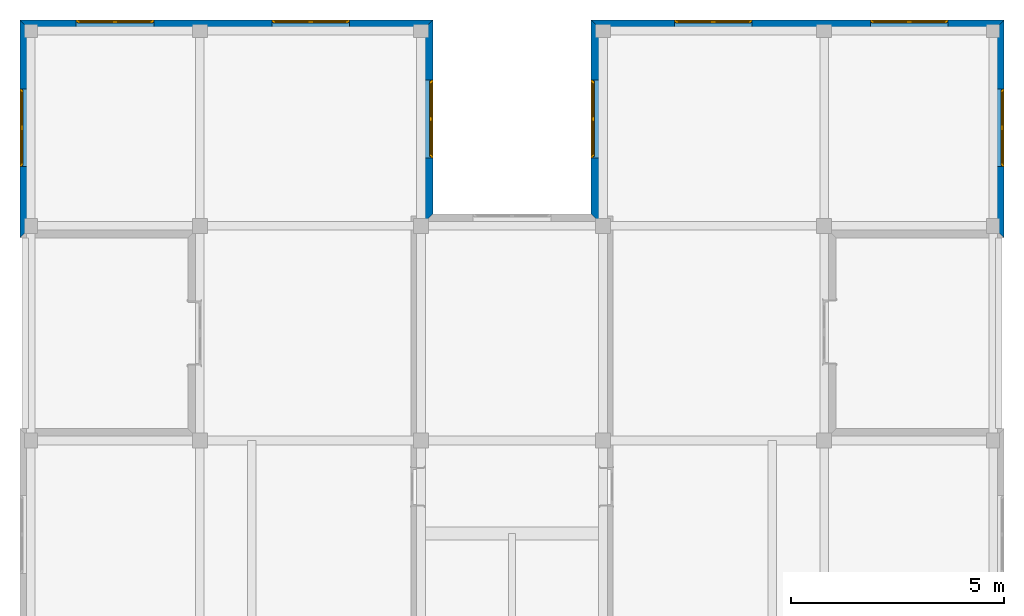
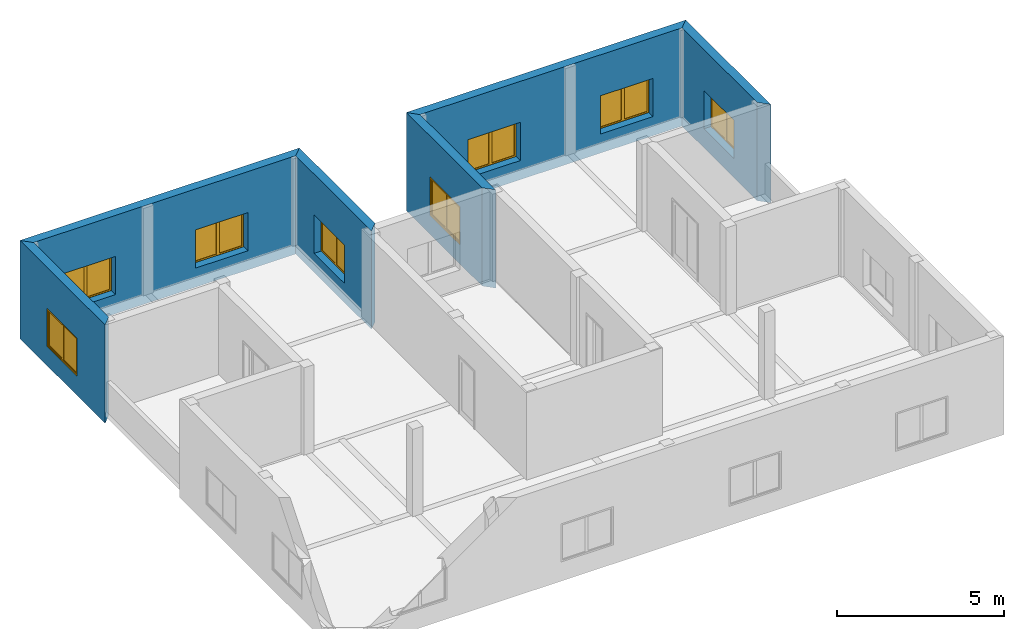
# One storey, part 5 of 6: 8 windows, 6 walls, 8 openings.
"""IFC2X3 building model written with IfcOpenShell, lengths in millimetres."""

from ifc_helpers import new_model, entity, si_unit, converted_unit, direction, frame, origin_with_axes, origin_2d_with_axis, place, context, subcontext, project, spatial, polyline, rectangle, outline, extrude, faceted_brep, source, transform, mapped, material, layer, layer_set, layer_usage, type_object, element, fill, save


model = new_model("IFC2X3")

# Units and contexts
model_context = context("Model", 3, precision=1e-05, world=origin_with_axes(), true_north=direction((0.0, 1.0)))
body_context = subcontext(model_context, "Body", "Model", "MODEL_VIEW")
ifc_project = project(units=[si_unit("LENGTHUNIT", "METRE", prefix="MILLI"), si_unit("AREAUNIT", "SQUARE_METRE"), si_unit("VOLUMEUNIT", "CUBIC_METRE"), converted_unit("PLANEANGLEUNIT", "DEGREE", entity("IfcPlaneAngleMeasure", 0.017453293), si_unit("PLANEANGLEUNIT", "RADIAN"), dimensions=[0, 0, 0, 0, 0, 0, 0]), si_unit("SOLIDANGLEUNIT", "STERADIAN"), si_unit("MASSUNIT", "GRAM"), si_unit("TIMEUNIT", "SECOND"), si_unit("THERMODYNAMICTEMPERATUREUNIT", "DEGREE_CELSIUS"), si_unit("LUMINOUSINTENSITYUNIT", "LUMEN")], contexts=[model_context])

# Site, building, storey
site_placement = place(None, origin_with_axes())
site = spatial("IfcSite", under=ifc_project, at=site_placement, Name="Sitio", CompositionType="ELEMENT")
building_placement = place(site_placement, origin_with_axes())
building = spatial("IfcBuilding", under=site, at=building_placement, Name="Ejemplo_StruBIM", CompositionType="ELEMENT")
storey_placement = place(building_placement, frame((0.0, 0.0, 3200.4), z_axis=(0.0, 0.0, 1.0), x_axis=(1.0, 0.0, 0.0)))
storey = spatial("IfcBuildingStorey", under=building, at=storey_placement, Name="First floor", CompositionType="ELEMENT", Elevation=3200.4)

# Wall, opening, window
ifc_material_1 = material(Name="Bloque mampostería")
ifc_layer = layer(ifc_material_1, 300.0, ventilated="UNKNOWN")
ifc_layer_set = layer_set([ifc_layer], Name="Bloque mampostería 300")
ifc_layer_usage_1 = layer_usage(ifc_layer_set, "AXIS2", "POSITIVE", 0.0)
wall_type = type_object("IfcWallType", Name="Bloque mampostería 11 3/4\"", PredefinedType="NOTDEFINED")
wall_1_placement = place(storey_placement, frame((-254.0, 18846.8, -400.0), z_axis=(0.0, 0.0, 1.0), x_axis=(0.0, -1.0, 0.0)))
wall_1 = element("IfcWallStandardCase", 1, at=wall_1_placement, inside=storey, type_object=wall_type, material=ifc_layer_usage_1, Name="Muro-006", context=body_context, shape_type="SweptSolid", body=[
    extrude(outline(polyline([(0.0, 0.0), (5105.4, 0.0), (4805.4, 300.0), (300.0, 300.0), (0.0, 0.0)])), origin_with_axes(), (0.0, 0.0, 1.0), 3600.4),
])
opening_1_placement = place(wall_1_placement, frame((2522.9, 0.0, 700.0), z_axis=(0.0, 0.0, 1.0), x_axis=(1.0, 0.0, 0.0)))
opening_1 = element("IfcOpeningElement", 2, at=opening_1_placement, cuts=wall_1, Name="V05", context=body_context, shape_type="SweptSolid", body=[
    extrude(rectangle(XDim=1820.0, YDim=1400.0, at=origin_2d_with_axis()), frame((0.0, 300.0, 700.0), z_axis=(0.0, 1.0, 0.0), x_axis=(1.0, 0.0, 0.0)), (0.0, 0.0, -1.0), 300.0),
])
ifc_material_2 = material(Name="Fondo")
window_style = type_object("IfcWindowStyle", Name="Ventana Doble Hoja 16", ConstructionType="NOTDEFINED", OperationType="DOUBLE_PANEL_HORIZONTAL", ParameterTakesPrecedence=False, Sizeable=False)
shared_shape_1 = source(origin_with_axes(), body_context, "Body", "Brep", [
    faceted_brep([(885.0, -50.0, 1350.0), (910.0, -50.0, 1350.0), (910.0, 0.0, 1350.0), (860.0, 0.0, 1350.0), (860.0, -25.0, 1350.0), (885.0, -25.0, 1350.0), (885.0, -50.0, 50.0), (910.0, -50.0, 50.0), (910.0, 0.0, 50.0), (860.0, 0.0, 50.0), (860.0, -25.0, 50.0), (885.0, -25.0, 50.0)], [[[0, 1, 2, 3, 4, 5]], [[6, 7, 1, 0]], [[1, 7, 8, 2]], [[2, 8, 9, 3]], [[4, 3, 9, 10]], [[10, 11, 5, 4]], [[5, 11, 6, 0]], [[11, 10, 9, 8, 7, 6]]]),
    faceted_brep([(-860.0, -25.0, 1350.0), (-860.0, 0.0, 1350.0), (-910.0, 0.0, 1350.0), (-910.0, -50.0, 1350.0), (-885.0, -50.0, 1350.0), (-885.0, -25.0, 1350.0), (-860.0, -25.0, 50.0), (-860.0, 0.0, 50.0), (-910.0, 0.0, 50.0), (-910.0, -50.0, 50.0), (-885.0, -50.0, 50.0), (-885.0, -25.0, 50.0)], [[[0, 1, 2, 3, 4, 5]], [[6, 7, 1, 0]], [[8, 2, 1, 7]], [[9, 3, 2, 8]], [[4, 3, 9, 10]], [[10, 11, 5, 4]], [[5, 11, 6, 0]], [[11, 10, 9, 8, 7, 6]]]),
    faceted_brep([(-860.0, -25.0, 50.0), (-860.0, 0.0, 50.0), (-910.0, 0.0, 50.0), (-910.0, -50.0, 50.0), (-885.0, -50.0, 50.0), (-885.0, -25.0, 50.0), (860.0, -25.0, 50.0), (860.0, 0.0, 50.0), (910.0, 0.0, 50.0), (910.0, 0.0, 0.0), (-910.0, 0.0, 0.0), (-910.0, -50.0, 0.0), (885.0, -50.0, 25.0), (-885.0, -50.0, 25.0), (910.0, -50.0, 0.0), (910.0, -50.0, 50.0), (885.0, -50.0, 50.0), (-885.0, -25.0, 25.0), (885.0, -25.0, 25.0), (885.0, -25.0, 50.0)], [[[0, 1, 2, 3, 4, 5]], [[6, 7, 1, 0]], [[8, 9, 10, 2, 1, 7]], [[11, 3, 2, 10]], [[12, 13, 4, 3, 11, 14, 15, 16]], [[13, 17, 5, 4]], [[5, 17, 18, 19, 6, 0]], [[19, 16, 15, 8, 7, 6]], [[15, 14, 9, 8]], [[14, 11, 10, 9]], [[12, 18, 17, 13]], [[19, 18, 12, 16]]]),
    faceted_brep([(885.0, -50.0, 1350.0), (910.0, -50.0, 1350.0), (910.0, -50.0, 1400.0), (-910.0, -50.0, 1400.0), (-910.0, -50.0, 1350.0), (-885.0, -50.0, 1350.0), (-885.0, -50.0, 1375.0), (885.0, -50.0, 1375.0), (885.0, -25.0, 1350.0), (860.0, -25.0, 1350.0), (860.0, 0.0, 1350.0), (910.0, 0.0, 1350.0), (910.0, 0.0, 1400.0), (-910.0, 0.0, 1400.0), (-910.0, 0.0, 1350.0), (-885.0, -25.0, 1350.0), (-860.0, 0.0, 1350.0), (-860.0, -25.0, 1350.0), (-885.0, -25.0, 1375.0), (885.0, -25.0, 1375.0)], [[[0, 1, 2, 3, 4, 5, 6, 7]], [[8, 9, 10, 11, 1, 0]], [[2, 1, 11, 12]], [[3, 2, 12, 13]], [[4, 3, 13, 14]], [[15, 5, 4, 14, 16, 17]], [[5, 15, 18, 6]], [[6, 18, 19, 7]], [[7, 19, 8, 0]], [[17, 9, 8, 19, 18, 15]], [[17, 16, 10, 9]], [[14, 13, 12, 11, 10, 16]]]),
    faceted_brep([(835.0, -25.0, 1325.0), (835.0, -75.0, 1325.0), (885.0, -75.0, 1325.0), (885.0, -25.0, 1325.0), (835.0, -25.0, 75.0), (835.0, -75.0, 75.0), (885.0, -75.0, 75.0), (885.0, -25.0, 75.0)], [[[0, 1, 2, 3]], [[4, 5, 1, 0]], [[1, 5, 6, 2]], [[3, 2, 6, 7]], [[0, 3, 7, 4]], [[7, 6, 5, 4]]]),
    faceted_brep([(50.0, -25.0, 75.0), (50.0, -75.0, 75.0), (0.0, -75.0, 75.0), (0.0, -25.0, 75.0), (50.0, -25.0, 1325.0), (50.0, -75.0, 1325.0), (0.0, -75.0, 1325.0), (0.0, -25.0, 1325.0)], [[[0, 1, 2, 3]], [[4, 5, 1, 0]], [[1, 5, 6, 2]], [[3, 2, 6, 7]], [[0, 3, 7, 4]], [[7, 6, 5, 4]]]),
    faceted_brep([(0.0, -25.0, 25.0), (0.0, -75.0, 25.0), (0.0, -75.0, 75.0), (0.0, -25.0, 75.0), (885.0, -25.0, 25.0), (885.0, -75.0, 25.0), (885.0, -75.0, 75.0), (835.0, -75.0, 75.0), (50.0, -75.0, 75.0), (50.0, -25.0, 75.0), (835.0, -25.0, 75.0), (885.0, -25.0, 75.0)], [[[0, 1, 2, 3]], [[4, 5, 1, 0]], [[1, 5, 6, 7, 8, 2]], [[3, 2, 8, 9]], [[0, 3, 9, 10, 11, 4]], [[11, 6, 5, 4]], [[10, 7, 6, 11]], [[9, 8, 7, 10]]]),
    faceted_brep([(885.0, -25.0, 1375.0), (885.0, -75.0, 1375.0), (885.0, -75.0, 1325.0), (885.0, -25.0, 1325.0), (0.0, -25.0, 1375.0), (0.0, -75.0, 1375.0), (0.0, -75.0, 1325.0), (50.0, -75.0, 1325.0), (835.0, -75.0, 1325.0), (835.0, -25.0, 1325.0), (50.0, -25.0, 1325.0), (0.0, -25.0, 1325.0)], [[[0, 1, 2, 3]], [[4, 5, 1, 0]], [[1, 5, 6, 7, 8, 2]], [[3, 2, 8, 9]], [[0, 3, 9, 10, 11, 4]], [[11, 6, 5, 4]], [[10, 7, 6, 11]], [[9, 8, 7, 10]]]),
    faceted_brep([(835.0, -40.0, 75.0), (835.0, -60.0, 75.0), (50.0, -60.0, 75.0), (50.0, -40.0, 75.0), (835.0, -40.0, 1325.0), (835.0, -60.0, 1325.0), (50.0, -60.0, 1325.0), (50.0, -40.0, 1325.0)], [[[0, 1, 2, 3]], [[4, 5, 1, 0]], [[1, 5, 6, 2]], [[3, 2, 6, 7]], [[0, 3, 7, 4]], [[7, 6, 5, 4]]]),
    faceted_brep([(-50.0, -25.0, 1325.0), (-50.0, -75.0, 1325.0), (0.0, -75.0, 1325.0), (0.0, -25.0, 1325.0), (-50.0, -25.0, 75.0), (-50.0, -75.0, 75.0), (0.0, -75.0, 75.0), (0.0, -25.0, 75.0)], [[[0, 1, 2, 3]], [[4, 5, 1, 0]], [[1, 5, 6, 2]], [[3, 2, 6, 7]], [[0, 3, 7, 4]], [[7, 6, 5, 4]]]),
    faceted_brep([(-835.0, -25.0, 75.0), (-835.0, -75.0, 75.0), (-885.0, -75.0, 75.0), (-885.0, -25.0, 75.0), (-835.0, -25.0, 1325.0), (-835.0, -75.0, 1325.0), (-885.0, -75.0, 1325.0), (-885.0, -25.0, 1325.0)], [[[0, 1, 2, 3]], [[4, 5, 1, 0]], [[1, 5, 6, 2]], [[3, 2, 6, 7]], [[0, 3, 7, 4]], [[7, 6, 5, 4]]]),
    faceted_brep([(-885.0, -25.0, 25.0), (-885.0, -75.0, 25.0), (-885.0, -75.0, 75.0), (-885.0, -25.0, 75.0), (0.0, -25.0, 25.0), (0.0, -75.0, 25.0), (0.0, -75.0, 75.0), (-50.0, -75.0, 75.0), (-835.0, -75.0, 75.0), (-835.0, -25.0, 75.0), (-50.0, -25.0, 75.0), (0.0, -25.0, 75.0)], [[[0, 1, 2, 3]], [[4, 5, 1, 0]], [[1, 5, 6, 7, 8, 2]], [[3, 2, 8, 9]], [[0, 3, 9, 10, 11, 4]], [[11, 6, 5, 4]], [[10, 7, 6, 11]], [[9, 8, 7, 10]]]),
    faceted_brep([(0.0, -25.0, 1375.0), (0.0, -75.0, 1375.0), (0.0, -75.0, 1325.0), (0.0, -25.0, 1325.0), (-885.0, -25.0, 1375.0), (-885.0, -75.0, 1375.0), (-885.0, -75.0, 1325.0), (-835.0, -75.0, 1325.0), (-50.0, -75.0, 1325.0), (-50.0, -25.0, 1325.0), (-835.0, -25.0, 1325.0), (-885.0, -25.0, 1325.0)], [[[0, 1, 2, 3]], [[4, 5, 1, 0]], [[1, 5, 6, 7, 8, 2]], [[3, 2, 8, 9]], [[0, 3, 9, 10, 11, 4]], [[11, 6, 5, 4]], [[10, 7, 6, 11]], [[9, 8, 7, 10]]]),
    faceted_brep([(-50.0, -40.0, 75.0), (-50.0, -60.0, 75.0), (-835.0, -60.0, 75.0), (-835.0, -40.0, 75.0), (-50.0, -40.0, 1325.0), (-50.0, -60.0, 1325.0), (-835.0, -60.0, 1325.0), (-835.0, -40.0, 1325.0)], [[[0, 1, 2, 3]], [[4, 5, 1, 0]], [[1, 5, 6, 2]], [[3, 2, 6, 7]], [[0, 3, 7, 4]], [[7, 6, 5, 4]]]),
])
window_1_placement = place(opening_1_placement, frame((910.0, 0.0, 0.0), z_axis=(0.0, 0.0, 1.0), x_axis=(-1.0, 0.0, 0.0)))
window_1 = element("IfcWindow", 3, at=window_1_placement, inside=storey, type_object=window_style, material=ifc_material_2, Name="V05", OverallHeight=1400.0, OverallWidth=1820.0, context=body_context, shape_type="MappedRepresentation", body=[
    mapped(shared_shape_1, transform((910.0, 0.0, 0.0))),
])
fill(opening_1, window_1)

# Wall, openings, windows
ifc_layer_usage_2 = layer_usage(ifc_layer_set, "AXIS2", "POSITIVE", 0.0)
wall_2_placement = place(storey_placement, frame((9423.4, 18846.8, -400.0), z_axis=(0.0, 0.0, 1.0), x_axis=(-1.0, 0.0, 0.0)))
wall_2 = element("IfcWallStandardCase", 4, at=wall_2_placement, inside=storey, type_object=wall_type, material=ifc_layer_usage_2, Name="Muro-007", context=body_context, shape_type="SweptSolid", body=[
    extrude(outline(polyline([(0.0, 0.0), (9677.4, 0.0), (9377.4, 300.0), (300.0, 300.0), (0.0, 0.0)])), origin_with_axes(), (0.0, 0.0, 1.0), 3600.4),
])
opening_2_placement = place(wall_2_placement, frame((2865.8, 0.0, 700.0), z_axis=(0.0, 0.0, 1.0), x_axis=(1.0, 0.0, 0.0)))
opening_2 = element("IfcOpeningElement", 5, at=opening_2_placement, cuts=wall_2, Name="V03", context=body_context, shape_type="SweptSolid", body=[
    extrude(rectangle(XDim=1820.0, YDim=1400.0, at=origin_2d_with_axis()), frame((0.0, 300.0, 700.0), z_axis=(0.0, 1.0, 0.0), x_axis=(1.0, 0.0, 0.0)), (0.0, 0.0, -1.0), 300.0),
])
opening_3_placement = place(wall_2_placement, frame((7450.5, 0.0, 700.0), z_axis=(0.0, 0.0, 1.0), x_axis=(1.0, 0.0, 0.0)))
opening_3 = element("IfcOpeningElement", 6, at=opening_3_placement, cuts=wall_2, Name="V04", context=body_context, shape_type="SweptSolid", body=[
    extrude(rectangle(XDim=1820.0, YDim=1400.0, at=origin_2d_with_axis()), frame((0.0, 300.0, 700.0), z_axis=(0.0, -1.0, 0.0), x_axis=(1.0, 0.0, 0.0)), (0.0, 0.0, 1.0), 300.0),
])
window_2_placement = place(opening_2_placement, frame((910.0, 0.0, 0.0), z_axis=(0.0, 0.0, 1.0), x_axis=(-1.0, 0.0, 0.0)))
window_2 = element("IfcWindow", 7, at=window_2_placement, inside=storey, type_object=window_style, material=ifc_material_2, Name="V03", OverallHeight=1400.0, OverallWidth=1820.0, context=body_context, shape_type="MappedRepresentation", body=[
    mapped(shared_shape_1, transform((910.0, 0.0, 0.0))),
])
fill(opening_2, window_2)
shared_shape_2 = source(origin_with_axes(), body_context, "Body", "Brep", [
    faceted_brep([(-885.0, -50.0, 1350.0), (-885.0, -25.0, 1350.0), (-860.0, -25.0, 1350.0), (-860.0, 0.0, 1350.0), (-910.0, 0.0, 1350.0), (-910.0, -50.0, 1350.0), (-885.0, -50.0, 50.0), (-885.0, -25.0, 50.0), (-860.0, -25.0, 50.0), (-860.0, 0.0, 50.0), (-910.0, 0.0, 50.0), (-910.0, -50.0, 50.0)], [[[0, 1, 2, 3, 4, 5]], [[1, 0, 6, 7]], [[8, 2, 1, 7]], [[2, 8, 9, 3]], [[4, 3, 9, 10]], [[5, 4, 10, 11]], [[6, 0, 5, 11]], [[7, 6, 11, 10, 9, 8]]]),
    faceted_brep([(860.0, -25.0, 1350.0), (885.0, -25.0, 1350.0), (885.0, -50.0, 1350.0), (910.0, -50.0, 1350.0), (910.0, 0.0, 1350.0), (860.0, 0.0, 1350.0), (860.0, -25.0, 50.0), (885.0, -25.0, 50.0), (885.0, -50.0, 50.0), (910.0, -50.0, 50.0), (910.0, 0.0, 50.0), (860.0, 0.0, 50.0)], [[[0, 1, 2, 3, 4, 5]], [[1, 0, 6, 7]], [[8, 2, 1, 7]], [[2, 8, 9, 3]], [[9, 10, 4, 3]], [[10, 11, 5, 4]], [[6, 0, 5, 11]], [[7, 6, 11, 10, 9, 8]]]),
    faceted_brep([(860.0, -25.0, 50.0), (885.0, -25.0, 50.0), (885.0, -50.0, 50.0), (910.0, -50.0, 50.0), (910.0, 0.0, 50.0), (860.0, 0.0, 50.0), (-860.0, -25.0, 50.0), (-885.0, -25.0, 50.0), (-885.0, -25.0, 25.0), (885.0, -25.0, 25.0), (885.0, -50.0, 25.0), (-885.0, -50.0, 25.0), (-885.0, -50.0, 50.0), (-910.0, -50.0, 50.0), (-910.0, -50.0, 0.0), (910.0, -50.0, 0.0), (910.0, 0.0, 0.0), (-910.0, 0.0, 50.0), (-860.0, 0.0, 50.0), (-910.0, 0.0, 0.0)], [[[0, 1, 2, 3, 4, 5]], [[1, 0, 6, 7, 8, 9]], [[10, 2, 1, 9]], [[11, 12, 13, 14, 15, 3, 2, 10]], [[15, 16, 4, 3]], [[17, 18, 5, 4, 16, 19]], [[6, 0, 5, 18]], [[7, 6, 18, 17, 13, 12]], [[7, 12, 11, 8]], [[11, 10, 9, 8]], [[13, 17, 19, 14]], [[14, 19, 16, 15]]]),
    faceted_brep([(-885.0, -50.0, 1350.0), (-885.0, -50.0, 1375.0), (885.0, -50.0, 1375.0), (885.0, -50.0, 1350.0), (910.0, -50.0, 1350.0), (910.0, -50.0, 1400.0), (-910.0, -50.0, 1400.0), (-910.0, -50.0, 1350.0), (-885.0, -25.0, 1350.0), (-885.0, -25.0, 1375.0), (885.0, -25.0, 1375.0), (885.0, -25.0, 1350.0), (860.0, -25.0, 1350.0), (860.0, 0.0, 1350.0), (910.0, 0.0, 1350.0), (910.0, 0.0, 1400.0), (-910.0, 0.0, 1400.0), (-910.0, 0.0, 1350.0), (-860.0, 0.0, 1350.0), (-860.0, -25.0, 1350.0)], [[[0, 1, 2, 3, 4, 5, 6, 7]], [[1, 0, 8, 9]], [[2, 1, 9, 10]], [[3, 2, 10, 11]], [[11, 12, 13, 14, 4, 3]], [[4, 14, 15, 5]], [[5, 15, 16, 6]], [[6, 16, 17, 7]], [[8, 0, 7, 17, 18, 19]], [[12, 11, 10, 9, 8, 19]], [[12, 19, 18, 13]], [[14, 13, 18, 17, 16, 15]]]),
    faceted_brep([(-835.0, -25.0, 1325.0), (-885.0, -25.0, 1325.0), (-885.0, -75.0, 1325.0), (-835.0, -75.0, 1325.0), (-835.0, -25.0, 75.0), (-885.0, -25.0, 75.0), (-885.0, -75.0, 75.0), (-835.0, -75.0, 75.0)], [[[0, 1, 2, 3]], [[0, 4, 5, 1]], [[1, 5, 6, 2]], [[3, 2, 6, 7]], [[4, 0, 3, 7]], [[5, 4, 7, 6]]]),
    faceted_brep([(-50.0, -25.0, 75.0), (0.0, -25.0, 75.0), (0.0, -75.0, 75.0), (-50.0, -75.0, 75.0), (-50.0, -25.0, 1325.0), (0.0, -25.0, 1325.0), (0.0, -75.0, 1325.0), (-50.0, -75.0, 1325.0)], [[[0, 1, 2, 3]], [[0, 4, 5, 1]], [[1, 5, 6, 2]], [[3, 2, 6, 7]], [[4, 0, 3, 7]], [[5, 4, 7, 6]]]),
    faceted_brep([(0.0, -25.0, 25.0), (0.0, -25.0, 75.0), (0.0, -75.0, 75.0), (0.0, -75.0, 25.0), (-885.0, -25.0, 25.0), (-885.0, -25.0, 75.0), (-835.0, -25.0, 75.0), (-50.0, -25.0, 75.0), (-50.0, -75.0, 75.0), (-835.0, -75.0, 75.0), (-885.0, -75.0, 75.0), (-885.0, -75.0, 25.0)], [[[0, 1, 2, 3]], [[0, 4, 5, 6, 7, 1]], [[1, 7, 8, 2]], [[3, 2, 8, 9, 10, 11]], [[4, 0, 3, 11]], [[5, 4, 11, 10]], [[6, 5, 10, 9]], [[7, 6, 9, 8]]]),
    faceted_brep([(-885.0, -25.0, 1375.0), (-885.0, -25.0, 1325.0), (-885.0, -75.0, 1325.0), (-885.0, -75.0, 1375.0), (0.0, -25.0, 1375.0), (0.0, -25.0, 1325.0), (-50.0, -25.0, 1325.0), (-835.0, -25.0, 1325.0), (-835.0, -75.0, 1325.0), (-50.0, -75.0, 1325.0), (0.0, -75.0, 1325.0), (0.0, -75.0, 1375.0)], [[[0, 1, 2, 3]], [[0, 4, 5, 6, 7, 1]], [[1, 7, 8, 2]], [[3, 2, 8, 9, 10, 11]], [[4, 0, 3, 11]], [[5, 4, 11, 10]], [[6, 5, 10, 9]], [[7, 6, 9, 8]]]),
    faceted_brep([(-835.0, -40.0, 75.0), (-50.0, -40.0, 75.0), (-50.0, -60.0, 75.0), (-835.0, -60.0, 75.0), (-835.0, -40.0, 1325.0), (-50.0, -40.0, 1325.0), (-50.0, -60.0, 1325.0), (-835.0, -60.0, 1325.0)], [[[0, 1, 2, 3]], [[0, 4, 5, 1]], [[1, 5, 6, 2]], [[3, 2, 6, 7]], [[4, 0, 3, 7]], [[5, 4, 7, 6]]]),
    faceted_brep([(50.0, -25.0, 1325.0), (0.0, -25.0, 1325.0), (0.0, -75.0, 1325.0), (50.0, -75.0, 1325.0), (50.0, -25.0, 75.0), (0.0, -25.0, 75.0), (0.0, -75.0, 75.0), (50.0, -75.0, 75.0)], [[[0, 1, 2, 3]], [[0, 4, 5, 1]], [[1, 5, 6, 2]], [[3, 2, 6, 7]], [[4, 0, 3, 7]], [[5, 4, 7, 6]]]),
    faceted_brep([(835.0, -25.0, 75.0), (885.0, -25.0, 75.0), (885.0, -75.0, 75.0), (835.0, -75.0, 75.0), (835.0, -25.0, 1325.0), (885.0, -25.0, 1325.0), (885.0, -75.0, 1325.0), (835.0, -75.0, 1325.0)], [[[0, 1, 2, 3]], [[0, 4, 5, 1]], [[1, 5, 6, 2]], [[3, 2, 6, 7]], [[4, 0, 3, 7]], [[5, 4, 7, 6]]]),
    faceted_brep([(885.0, -25.0, 25.0), (885.0, -25.0, 75.0), (885.0, -75.0, 75.0), (885.0, -75.0, 25.0), (0.0, -25.0, 25.0), (0.0, -25.0, 75.0), (50.0, -25.0, 75.0), (835.0, -25.0, 75.0), (835.0, -75.0, 75.0), (50.0, -75.0, 75.0), (0.0, -75.0, 75.0), (0.0, -75.0, 25.0)], [[[0, 1, 2, 3]], [[0, 4, 5, 6, 7, 1]], [[1, 7, 8, 2]], [[3, 2, 8, 9, 10, 11]], [[4, 0, 3, 11]], [[5, 4, 11, 10]], [[6, 5, 10, 9]], [[7, 6, 9, 8]]]),
    faceted_brep([(0.0, -25.0, 1375.0), (0.0, -25.0, 1325.0), (0.0, -75.0, 1325.0), (0.0, -75.0, 1375.0), (885.0, -25.0, 1375.0), (885.0, -25.0, 1325.0), (835.0, -25.0, 1325.0), (50.0, -25.0, 1325.0), (50.0, -75.0, 1325.0), (835.0, -75.0, 1325.0), (885.0, -75.0, 1325.0), (885.0, -75.0, 1375.0)], [[[0, 1, 2, 3]], [[0, 4, 5, 6, 7, 1]], [[1, 7, 8, 2]], [[3, 2, 8, 9, 10, 11]], [[4, 0, 3, 11]], [[5, 4, 11, 10]], [[6, 5, 10, 9]], [[7, 6, 9, 8]]]),
    faceted_brep([(50.0, -40.0, 75.0), (835.0, -40.0, 75.0), (835.0, -60.0, 75.0), (50.0, -60.0, 75.0), (50.0, -40.0, 1325.0), (835.0, -40.0, 1325.0), (835.0, -60.0, 1325.0), (50.0, -60.0, 1325.0)], [[[0, 1, 2, 3]], [[0, 4, 5, 1]], [[1, 5, 6, 2]], [[3, 2, 6, 7]], [[4, 0, 3, 7]], [[5, 4, 7, 6]]]),
])
window_3_placement = place(opening_3_placement, frame((910.0, 0.0, 0.0), z_axis=(0.0, 0.0, 1.0), x_axis=(-1.0, 0.0, 0.0)))
window_3 = element("IfcWindow", 8, at=window_3_placement, inside=storey, type_object=window_style, material=ifc_material_2, Name="V04", OverallHeight=1400.0, OverallWidth=1820.0, context=body_context, shape_type="MappedRepresentation", body=[
    mapped(shared_shape_2, transform((910.0, 0.0, 0.0))),
])
fill(opening_3, window_3)

# Wall, opening, window
ifc_layer_usage_3 = layer_usage(ifc_layer_set, "AXIS2", "POSITIVE", 0.0)
wall_3_placement = place(storey_placement, frame((9423.4, 14300.2, -400.0), z_axis=(0.0, 0.0, 1.0), x_axis=(0.0, 1.0, 0.0)))
wall_3 = element("IfcWallStandardCase", 9, at=wall_3_placement, inside=storey, type_object=wall_type, material=ifc_layer_usage_3, Name="Muro-009", context=body_context, shape_type="SweptSolid", body=[
    extrude(outline(polyline([(0.0, 0.0), (4546.6, 0.0), (4246.6, 300.0), (-300.0, 300.0), (0.0, 0.0)])), origin_with_axes(), (0.0, 0.0, 1.0), 3600.4),
])
opening_4_placement = place(wall_3_placement, frame((2226.9, 0.0, 700.0), z_axis=(0.0, 0.0, 1.0), x_axis=(1.0, 0.0, 0.0)))
opening_4 = element("IfcOpeningElement", 10, at=opening_4_placement, cuts=wall_3, Name="V08", context=body_context, shape_type="SweptSolid", body=[
    extrude(rectangle(XDim=1820.0, YDim=1400.0, at=origin_2d_with_axis()), frame((0.0, 300.0, 700.0), z_axis=(0.0, -1.0, 0.0), x_axis=(1.0, 0.0, 0.0)), (0.0, 0.0, 1.0), 300.0),
])
window_4_placement = place(opening_4_placement, frame((910.0, 0.0, 0.0), z_axis=(0.0, 0.0, 1.0), x_axis=(-1.0, 0.0, 0.0)))
window_4 = element("IfcWindow", 11, at=window_4_placement, inside=storey, type_object=window_style, material=ifc_material_2, Name="V08", OverallHeight=1400.0, OverallWidth=1820.0, context=body_context, shape_type="MappedRepresentation", body=[
    mapped(shared_shape_2, transform((910.0, 0.0, 0.0))),
])
fill(opening_4, window_4)

ifc_layer_usage_4 = layer_usage(ifc_layer_set, "AXIS2", "POSITIVE", 0.0)
wall_4_placement = place(storey_placement, frame((13131.8, 18846.8, -400.0), z_axis=(0.0, 0.0, 1.0), x_axis=(0.0, -1.0, 0.0)))
wall_4 = element("IfcWallStandardCase", 12, at=wall_4_placement, inside=storey, type_object=wall_type, material=ifc_layer_usage_4, Name="Muro-010", context=body_context, shape_type="SweptSolid", body=[
    extrude(outline(polyline([(0.0, 0.0), (4546.6, 0.0), (4846.6, 300.0), (300.0, 300.0), (0.0, 0.0)])), origin_with_axes(), (0.0, 0.0, 1.0), 3600.4),
])
opening_5_placement = place(wall_4_placement, frame((2319.7, 0.0, 700.0), z_axis=(0.0, 0.0, 1.0), x_axis=(1.0, 0.0, 0.0)))
opening_5 = element("IfcOpeningElement", 13, at=opening_5_placement, cuts=wall_4, Name="V09", context=body_context, shape_type="SweptSolid", body=[
    extrude(rectangle(XDim=1820.0, YDim=1400.0, at=origin_2d_with_axis()), frame((0.0, 300.0, 700.0), z_axis=(0.0, 1.0, 0.0), x_axis=(1.0, 0.0, 0.0)), (0.0, 0.0, -1.0), 300.0),
])
window_5_placement = place(opening_5_placement, frame((910.0, 0.0, 0.0), z_axis=(0.0, 0.0, 1.0), x_axis=(-1.0, 0.0, 0.0)))
window_5 = element("IfcWindow", 14, at=window_5_placement, inside=storey, type_object=window_style, material=ifc_material_2, Name="V09", OverallHeight=1400.0, OverallWidth=1820.0, context=body_context, shape_type="MappedRepresentation", body=[
    mapped(shared_shape_1, transform((910.0, 0.0, 0.0))),
])
fill(opening_5, window_5)

# Wall, openings, windows
ifc_layer_usage_5 = layer_usage(ifc_layer_set, "AXIS2", "POSITIVE", 0.0)
wall_5_placement = place(storey_placement, frame((22809.2, 18846.8, -400.0), z_axis=(0.0, 0.0, 1.0), x_axis=(-1.0, 0.0, 0.0)))
wall_5 = element("IfcWallStandardCase", 15, at=wall_5_placement, inside=storey, type_object=wall_type, material=ifc_layer_usage_5, Name="Muro-011", context=body_context, shape_type="SweptSolid", body=[
    extrude(outline(polyline([(0.0, 0.0), (9677.4, 0.0), (9377.4, 300.0), (300.0, 300.0), (0.0, 0.0)])), origin_with_axes(), (0.0, 0.0, 1.0), 3600.4),
])
opening_6_placement = place(wall_5_placement, frame((6811.6, 0.0, 700.0), z_axis=(0.0, 0.0, 1.0), x_axis=(1.0, 0.0, 0.0)))
opening_6 = element("IfcOpeningElement", 16, at=opening_6_placement, cuts=wall_5, Name="V11", context=body_context, shape_type="SweptSolid", body=[
    extrude(rectangle(XDim=1820.0, YDim=1400.0, at=origin_2d_with_axis()), frame((0.0, 300.0, 700.0), z_axis=(0.0, 1.0, 0.0), x_axis=(1.0, 0.0, 0.0)), (0.0, 0.0, -1.0), 300.0),
])
opening_7_placement = place(wall_5_placement, frame((2218.1, 0.0, 700.0), z_axis=(0.0, 0.0, 1.0), x_axis=(1.0, 0.0, 0.0)))
opening_7 = element("IfcOpeningElement", 17, at=opening_7_placement, cuts=wall_5, Name="V12", context=body_context, shape_type="SweptSolid", body=[
    extrude(rectangle(XDim=1820.0, YDim=1400.0, at=origin_2d_with_axis()), frame((0.0, 300.0, 700.0), z_axis=(0.0, -1.0, 0.0), x_axis=(1.0, 0.0, 0.0)), (0.0, 0.0, 1.0), 300.0),
])
window_6_placement = place(opening_6_placement, frame((910.0, 0.0, 0.0), z_axis=(0.0, 0.0, 1.0), x_axis=(-1.0, 0.0, 0.0)))
window_6 = element("IfcWindow", 18, at=window_6_placement, inside=storey, type_object=window_style, material=ifc_material_2, Name="V11", OverallHeight=1400.0, OverallWidth=1820.0, context=body_context, shape_type="MappedRepresentation", body=[
    mapped(shared_shape_1, transform((910.0, 0.0, 0.0))),
])
fill(opening_6, window_6)
window_7_placement = place(opening_7_placement, frame((910.0, 0.0, 0.0), z_axis=(0.0, 0.0, 1.0), x_axis=(-1.0, 0.0, 0.0)))
window_7 = element("IfcWindow", 19, at=window_7_placement, inside=storey, type_object=window_style, material=ifc_material_2, Name="V12", OverallHeight=1400.0, OverallWidth=1820.0, context=body_context, shape_type="MappedRepresentation", body=[
    mapped(shared_shape_2, transform((910.0, 0.0, 0.0))),
])
fill(opening_7, window_7)

# Wall, opening, window
ifc_layer_usage_6 = layer_usage(ifc_layer_set, "AXIS2", "POSITIVE", 0.0)
wall_6_placement = place(storey_placement, frame((22809.2, 13741.4, -400.0), z_axis=(0.0, 0.0, 1.0), x_axis=(0.0, 1.0, 0.0)))
wall_6 = element("IfcWallStandardCase", 20, at=wall_6_placement, inside=storey, type_object=wall_type, material=ifc_layer_usage_6, Name="Muro-011", context=body_context, shape_type="SweptSolid", body=[
    extrude(outline(polyline([(0.0, 0.0), (5105.4, 0.0), (4805.4, 300.0), (300.0, 300.0), (0.0, 0.0)])), origin_with_axes(), (0.0, 0.0, 1.0), 3600.4),
])
opening_8_placement = place(wall_6_placement, frame((2582.5, 0.0, 700.0), z_axis=(0.0, 0.0, 1.0), x_axis=(1.0, 0.0, 0.0)))
opening_8 = element("IfcOpeningElement", 21, at=opening_8_placement, cuts=wall_6, Name="V13", context=body_context, shape_type="SweptSolid", body=[
    extrude(rectangle(XDim=1820.0, YDim=1400.0, at=origin_2d_with_axis()), frame((0.0, 300.0, 700.0), z_axis=(0.0, -1.0, 0.0), x_axis=(1.0, 0.0, 0.0)), (0.0, 0.0, 1.0), 300.0),
])
window_8_placement = place(opening_8_placement, frame((910.0, 0.0, 0.0), z_axis=(0.0, 0.0, 1.0), x_axis=(-1.0, 0.0, 0.0)))
window_8 = element("IfcWindow", 22, at=window_8_placement, inside=storey, type_object=window_style, material=ifc_material_2, Name="V13", OverallHeight=1400.0, OverallWidth=1820.0, context=body_context, shape_type="MappedRepresentation", body=[
    mapped(shared_shape_2, transform((910.0, 0.0, 0.0))),
])
fill(opening_8, window_8)

save(model, "model.ifc")
